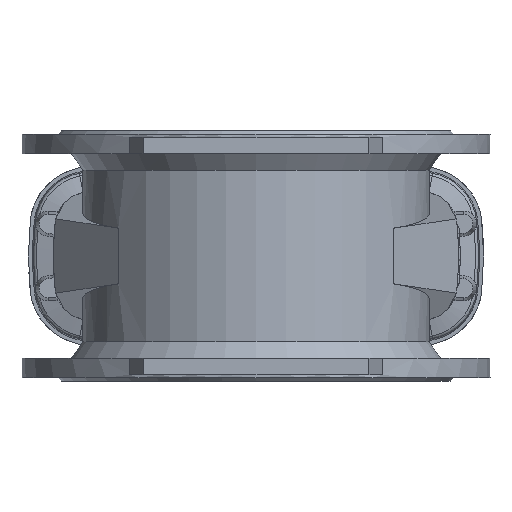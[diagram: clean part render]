
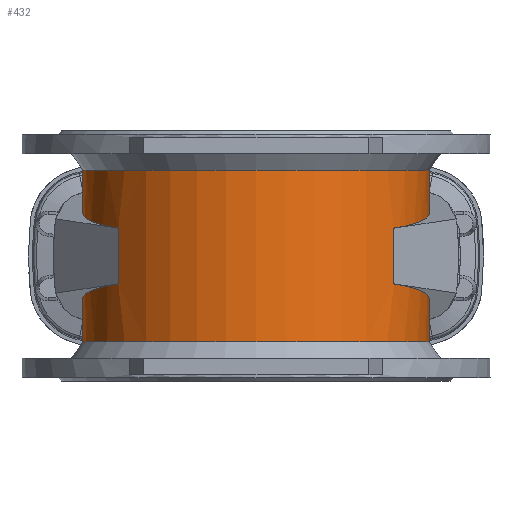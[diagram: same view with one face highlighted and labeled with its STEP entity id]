
A CAD part, front view. The second image highlights one B-rep face of the part: STEP entity #432.
In plain terms, the highlighted cylindrical face has radius 214.499 mm (diameter 428.998 mm), a partial arc.
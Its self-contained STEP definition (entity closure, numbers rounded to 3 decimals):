
#10 = EDGE_CURVE ( 'NONE', #1549, #2175, #4182, .T. ) ;
#147 = CARTESIAN_POINT ( 'NONE',  ( 8., 214.35, -500000. ) ) ;
#163 = DIRECTION ( 'NONE',  ( 0., 0., -1. ) ) ;
#432 = ADVANCED_FACE ( 'NONE', ( #7640 ), #7644, .T. ) ;
#1433 = VERTEX_POINT ( 'NONE', #12545 ) ;
#1492 = VERTEX_POINT ( 'NONE', #12604 ) ;
#1493 = VERTEX_POINT ( 'NONE', #12605 ) ;
#1494 = VERTEX_POINT ( 'NONE', #12606 ) ;
#1549 = VERTEX_POINT ( 'NONE', #12619 ) ;
#1859 = EDGE_CURVE ( 'NONE', #1433, #1494, #10592, .T. ) ;
#1867 = EDGE_CURVE ( 'NONE', #1493, #1492, #13282, .T. ) ;
#1878 = EDGE_CURVE ( 'NONE', #1494, #1492, #13294, .T. ) ;
#1885 = EDGE_CURVE ( 'NONE', #2174, #1433, #13305, .T. ) ;
#1954 = EDGE_CURVE ( 'NONE', #2063, #2174, #13794, .T. ) ;
#1956 = EDGE_CURVE ( 'NONE', #2058, #2175, #13385, .T. ) ;
#2006 = EDGE_CURVE ( 'NONE', #2058, #2063, #13439, .T. ) ;
#2044 = EDGE_CURVE ( 'NONE', #2213, #2228, #13816, .T. ) ;
#2058 = VERTEX_POINT ( 'NONE', #14378 ) ;
#2063 = VERTEX_POINT ( 'NONE', #14383 ) ;
#2143 = VERTEX_POINT ( 'NONE', #14461 ) ;
#2174 = VERTEX_POINT ( 'NONE', #14492 ) ;
#2175 = VERTEX_POINT ( 'NONE', #14493 ) ;
#2213 = VERTEX_POINT ( 'NONE', #14531 ) ;
#2228 = VERTEX_POINT ( 'NONE', #14546 ) ;
#2982 = EDGE_CURVE ( 'NONE', #2228, #2143, #13533, .T. ) ;
#3009 = EDGE_CURVE ( 'NONE', #1493, #2213, #13553, .T. ) ;
#3046 = EDGE_CURVE ( 'NONE', #2143, #1549, #13864, .T. ) ;
#3306 = EDGE_LOOP ( 'NONE', ( #3600, #3601, #3602, #3603, #3604, #3605, #3606, #3607, #3608, #3609, #3610, #3611 ) ) ;
#3600 = ORIENTED_EDGE ( 'NONE', *, *, #1878, .F. ) ;
#3601 = ORIENTED_EDGE ( 'NONE', *, *, #1859, .F. ) ;
#3602 = ORIENTED_EDGE ( 'NONE', *, *, #1885, .F. ) ;
#3603 = ORIENTED_EDGE ( 'NONE', *, *, #1954, .F. ) ;
#3604 = ORIENTED_EDGE ( 'NONE', *, *, #2006, .F. ) ;
#3605 = ORIENTED_EDGE ( 'NONE', *, *, #1956, .T. ) ;
#3606 = ORIENTED_EDGE ( 'NONE', *, *, #10, .F. ) ;
#3607 = ORIENTED_EDGE ( 'NONE', *, *, #3046, .F. ) ;
#3608 = ORIENTED_EDGE ( 'NONE', *, *, #2982, .F. ) ;
#3609 = ORIENTED_EDGE ( 'NONE', *, *, #2044, .F. ) ;
#3610 = ORIENTED_EDGE ( 'NONE', *, *, #3009, .F. ) ;
#3611 = ORIENTED_EDGE ( 'NONE', *, *, #1867, .T. ) ;
#4182 = LINE ( 'NONE', #147, #4186 ) ;
#4186 = VECTOR ( 'NONE', #163, 1000. ) ;
#6757 = AXIS2_PLACEMENT_3D ( 'NONE', #8545, #8543, #8538 ) ;
#7640 = FACE_OUTER_BOUND ( 'NONE', #3306, .T. ) ;
#7644 = CYLINDRICAL_SURFACE ( 'NONE', #6757, 214.499 ) ;
#8538 = DIRECTION ( 'NONE',  ( 1., 0., 0. ) ) ;
#8543 = DIRECTION ( 'NONE',  ( 0., 0., 1. ) ) ;
#8545 = CARTESIAN_POINT ( 'NONE',  ( 0., 0., -500000. ) ) ;
#10592 =( BOUNDED_CURVE ( )  B_SPLINE_CURVE ( 3, ( #12880, #12881, #12886, #12887 ),
 .UNSPECIFIED., .F., .F. ) 
 B_SPLINE_CURVE_WITH_KNOTS ( ( 4, 4 ),
 ( 3.938, 6.121 ),
 .UNSPECIFIED. ) 
 CURVE ( )  GEOMETRIC_REPRESENTATION_ITEM ( )  RATIONAL_B_SPLINE_CURVE ( ( 1., 0.641, 0.641, 1. ) ) 
 REPRESENTATION_ITEM ( '' )  );
#11985 = AXIS2_PLACEMENT_3D ( 'NONE', #12933, #12934, #12935 ) ;
#12011 = AXIS2_PLACEMENT_3D ( 'NONE', #14009, #14010, #14011 ) ;
#12545 = CARTESIAN_POINT ( 'NONE',  ( -170.765, -129.804, 34.456 ) ) ;
#12604 = CARTESIAN_POINT ( 'NONE',  ( -8., 214.35, 106.291 ) ) ;
#12605 = CARTESIAN_POINT ( 'NONE',  ( 8., 214.35, 106.291 ) ) ;
#12606 = CARTESIAN_POINT ( 'NONE',  ( -8., 214.35, 85.693 ) ) ;
#12619 = CARTESIAN_POINT ( 'NONE',  ( 8., 214.35, -85.693 ) ) ;
#12880 = CARTESIAN_POINT ( 'NONE',  ( -170.765, -129.804, 34.456 ) ) ;
#12881 = CARTESIAN_POINT ( 'NONE',  ( -290.636, 27.894, 54.506 ) ) ;
#12886 = CARTESIAN_POINT ( 'NONE',  ( -205.947, 206.962, 81.165 ) ) ;
#12887 = CARTESIAN_POINT ( 'NONE',  ( -8., 214.35, 85.693 ) ) ;
#12933 = CARTESIAN_POINT ( 'NONE',  ( 0., 0., 106.291 ) ) ;
#12934 = DIRECTION ( 'NONE',  ( 0., 0., -1. ) ) ;
#12935 = DIRECTION ( 'NONE',  ( 1., 0., 0. ) ) ;
#13005 = CARTESIAN_POINT ( 'NONE',  ( -8., 214.35, -500000. ) ) ;
#13006 = DIRECTION ( 'NONE',  ( 0., 0., 1. ) ) ;
#13016 = DIRECTION ( 'NONE',  ( 0., 0., 1. ) ) ;
#13041 = CARTESIAN_POINT ( 'NONE',  ( -170.765, -129.804, -500000. ) ) ;
#13282 = CIRCLE ( 'NONE', #11985, 214.499 ) ;
#13294 = LINE ( 'NONE', #13005, #13297 ) ;
#13297 = VECTOR ( 'NONE', #13006, 1000. ) ;
#13305 = LINE ( 'NONE', #13041, #13307 ) ;
#13307 = VECTOR ( 'NONE', #13016, 1000. ) ;
#13385 = CIRCLE ( 'NONE', #12011, 214.499 ) ;
#13439 = LINE ( 'NONE', #14219, #13442 ) ;
#13442 = VECTOR ( 'NONE', #14220, 1000. ) ;
#13533 = LINE ( 'NONE', #14899, #13536 ) ;
#13536 = VECTOR ( 'NONE', #14909, 1000. ) ;
#13553 = LINE ( 'NONE', #15109, #13556 ) ;
#13556 = VECTOR ( 'NONE', #15110, 1000. ) ;
#13794 =( BOUNDED_CURVE ( )  B_SPLINE_CURVE ( 3, ( #14000, #13991, #13993, #14002 ),
 .UNSPECIFIED., .F., .F. ) 
 B_SPLINE_CURVE_WITH_KNOTS ( ( 4, 4 ),
 ( 3.304, 5.487 ),
 .UNSPECIFIED. ) 
 CURVE ( )  GEOMETRIC_REPRESENTATION_ITEM ( )  RATIONAL_B_SPLINE_CURVE ( ( 1., 0.641, 0.641, 1. ) ) 
 REPRESENTATION_ITEM ( '' )  );
#13816 =( BOUNDED_CURVE ( )  B_SPLINE_CURVE ( 3, ( #14347, #14344, #14337, #14348 ),
 .UNSPECIFIED., .F., .F. ) 
 B_SPLINE_CURVE_WITH_KNOTS ( ( 4, 4 ),
 ( 0.162, 2.346 ),
 .UNSPECIFIED. ) 
 CURVE ( )  GEOMETRIC_REPRESENTATION_ITEM ( )  RATIONAL_B_SPLINE_CURVE ( ( 1., 0.641, 0.641, 1. ) ) 
 REPRESENTATION_ITEM ( '' )  );
#13864 =( BOUNDED_CURVE ( )  B_SPLINE_CURVE ( 3, ( #15229, #15230, #15235, #15236 ),
 .UNSPECIFIED., .F., .F. ) 
 B_SPLINE_CURVE_WITH_KNOTS ( ( 4, 4 ),
 ( 0.796, 2.98 ),
 .UNSPECIFIED. ) 
 CURVE ( )  GEOMETRIC_REPRESENTATION_ITEM ( )  RATIONAL_B_SPLINE_CURVE ( ( 1., 0.641, 0.641, 1. ) ) 
 REPRESENTATION_ITEM ( '' )  );
#13991 = CARTESIAN_POINT ( 'NONE',  ( -205.947, 206.962, -81.165 ) ) ;
#13993 = CARTESIAN_POINT ( 'NONE',  ( -290.636, 27.894, -54.506 ) ) ;
#14000 = CARTESIAN_POINT ( 'NONE',  ( -8., 214.35, -85.693 ) ) ;
#14002 = CARTESIAN_POINT ( 'NONE',  ( -170.765, -129.804, -34.456 ) ) ;
#14009 = CARTESIAN_POINT ( 'NONE',  ( 0., 0., -106.291 ) ) ;
#14010 = DIRECTION ( 'NONE',  ( 0., 0., 1. ) ) ;
#14011 = DIRECTION ( 'NONE',  ( -1., 0., 0. ) ) ;
#14219 = CARTESIAN_POINT ( 'NONE',  ( -8., 214.35, -500000. ) ) ;
#14220 = DIRECTION ( 'NONE',  ( 0., 0., 1. ) ) ;
#14337 = CARTESIAN_POINT ( 'NONE',  ( 290.636, 27.894, 54.506 ) ) ;
#14344 = CARTESIAN_POINT ( 'NONE',  ( 205.947, 206.962, 81.165 ) ) ;
#14347 = CARTESIAN_POINT ( 'NONE',  ( 8., 214.35, 85.693 ) ) ;
#14348 = CARTESIAN_POINT ( 'NONE',  ( 170.765, -129.804, 34.456 ) ) ;
#14378 = CARTESIAN_POINT ( 'NONE',  ( -8., 214.35, -106.291 ) ) ;
#14383 = CARTESIAN_POINT ( 'NONE',  ( -8., 214.35, -85.693 ) ) ;
#14461 = CARTESIAN_POINT ( 'NONE',  ( 170.765, -129.804, -34.456 ) ) ;
#14492 = CARTESIAN_POINT ( 'NONE',  ( -170.765, -129.804, -34.456 ) ) ;
#14493 = CARTESIAN_POINT ( 'NONE',  ( 8., 214.35, -106.291 ) ) ;
#14531 = CARTESIAN_POINT ( 'NONE',  ( 8., 214.35, 85.693 ) ) ;
#14546 = CARTESIAN_POINT ( 'NONE',  ( 170.765, -129.804, 34.456 ) ) ;
#14899 = CARTESIAN_POINT ( 'NONE',  ( 170.765, -129.804, -500000. ) ) ;
#14909 = DIRECTION ( 'NONE',  ( 0., 0., -1. ) ) ;
#15109 = CARTESIAN_POINT ( 'NONE',  ( 8., 214.35, -500000. ) ) ;
#15110 = DIRECTION ( 'NONE',  ( 0., 0., -1. ) ) ;
#15229 = CARTESIAN_POINT ( 'NONE',  ( 170.765, -129.804, -34.456 ) ) ;
#15230 = CARTESIAN_POINT ( 'NONE',  ( 290.636, 27.894, -54.506 ) ) ;
#15235 = CARTESIAN_POINT ( 'NONE',  ( 205.947, 206.962, -81.165 ) ) ;
#15236 = CARTESIAN_POINT ( 'NONE',  ( 8., 214.35, -85.693 ) ) ;
